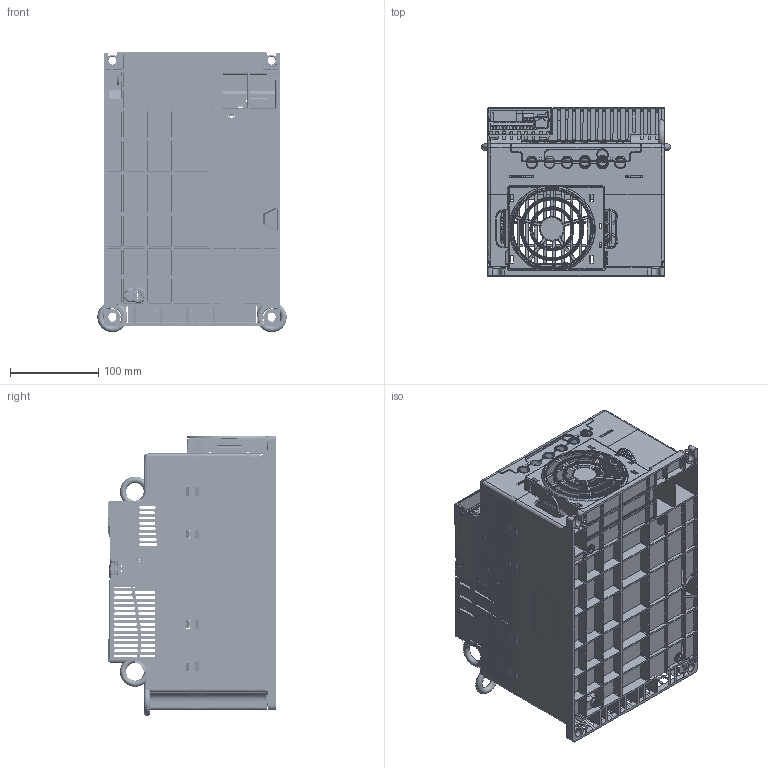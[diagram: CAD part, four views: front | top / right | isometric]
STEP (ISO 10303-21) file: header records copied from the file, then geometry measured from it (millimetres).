
FILE_DESCRIPTION((''),'2;1');
FILE_NAME('VFD-E-D1-PD-3D00','2009-11-11T',('KADY.CHANG'),(''),'PRO/ENGINEER BY PARAMETRIC TECHNOLOGY CORPORATION, 2007390','PRO/ENGINEER BY PARAMETRIC TECHNOLOGY CORPORATION, 2007390','');
FILE_SCHEMA(('CONFIG_CONTROL_DESIGN'));
Products named in the file (1): VFD-E-D1-PD-3D00
Bounding box: 213.95 x 190 x 316.98 mm (x, y, z)
Surface area: 523402.1 mm2 (no closed solid volume)
Topology: 0 solids, 0 shells, 1510 faces, 14840 edges, 14769 vertices
Faces by surface type: bspline 1423, torus 85, sphere 2
Entity records: 278497 total; most frequent: CARTESIAN_POINT 141978, DIRECTION 20642, TRIMMED_CURVE 19265, VECTOR 18062, LINE 18062, DEFINITIONAL_REPRESENTATION 14696, PCURVE 14696, COMPOSITE_CURVE_SEGMENT 14696
